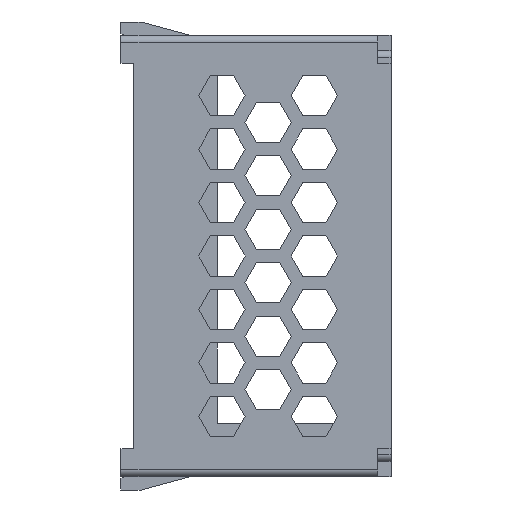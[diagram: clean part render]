
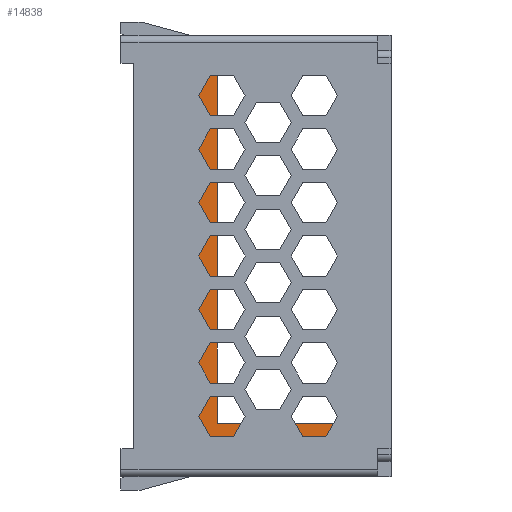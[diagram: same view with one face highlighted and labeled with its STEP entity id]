
A CAD part, left-side view. The second image highlights one B-rep face of the part: STEP entity #14838.
In plain terms, the highlighted planar face has unit normal (-1, 0, 0).
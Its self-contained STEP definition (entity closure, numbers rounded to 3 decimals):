
#571 = DIRECTION ( 'NONE',  ( 0., 0., 1. ) ) ;
#683 = CARTESIAN_POINT ( 'NONE',  ( 45., 36.4, -30.85 ) ) ;
#1145 = CARTESIAN_POINT ( 'NONE',  ( 45., 36.4, 28. ) ) ;
#1245 = VERTEX_POINT ( 'NONE', #16728 ) ;
#1760 = VECTOR ( 'NONE', #12596, 1000. ) ;
#2213 = CARTESIAN_POINT ( 'NONE',  ( 45., 36.4, -33. ) ) ;
#2543 = VECTOR ( 'NONE', #20931, 1000. ) ;
#2684 = EDGE_CURVE ( 'NONE', #10753, #12878, #19997, .T. ) ;
#2953 = VERTEX_POINT ( 'NONE', #24422 ) ;
#3290 = LINE ( 'NONE', #10526, #15840 ) ;
#3335 = CARTESIAN_POINT ( 'NONE',  ( 45., 36.4, 26.85 ) ) ;
#3409 = VECTOR ( 'NONE', #3996, 1000. ) ;
#3436 = CARTESIAN_POINT ( 'NONE',  ( 45., 36.4, 28. ) ) ;
#3996 = DIRECTION ( 'NONE',  ( 0., -1., 0. ) ) ;
#4067 = CARTESIAN_POINT ( 'NONE',  ( 45., 2., 26.5 ) ) ;
#4197 = ORIENTED_EDGE ( 'NONE', *, *, #12172, .T. ) ;
#4563 = AXIS2_PLACEMENT_3D ( 'NONE', #2213, #10629, #17400 ) ;
#4600 = CARTESIAN_POINT ( 'NONE',  ( 45., 2., -27. ) ) ;
#4747 = CARTESIAN_POINT ( 'NONE',  ( 45., 36.4, 26.85 ) ) ;
#4927 = ORIENTED_EDGE ( 'NONE', *, *, #15068, .F. ) ;
#5239 = DIRECTION ( 'NONE',  ( 0., -1., 0. ) ) ;
#5325 = CARTESIAN_POINT ( 'NONE',  ( 45., 22., 26.5 ) ) ;
#5811 = ORIENTED_EDGE ( 'NONE', *, *, #26306, .F. ) ;
#6099 = VECTOR ( 'NONE', #24732, 1000. ) ;
#7033 = VECTOR ( 'NONE', #8979, 1000. ) ;
#7063 = VERTEX_POINT ( 'NONE', #27923 ) ;
#7214 = VERTEX_POINT ( 'NONE', #24036 ) ;
#7464 = EDGE_CURVE ( 'NONE', #1245, #2953, #12552, .T. ) ;
#7548 = LINE ( 'NONE', #8147, #1760 ) ;
#7779 = CARTESIAN_POINT ( 'NONE',  ( 45., 0., 28. ) ) ;
#7874 = ORIENTED_EDGE ( 'NONE', *, *, #27504, .T. ) ;
#7976 = DIRECTION ( 'NONE',  ( 0., 1., 0. ) ) ;
#8147 = CARTESIAN_POINT ( 'NONE',  ( 45., 2., -27. ) ) ;
#8184 = CARTESIAN_POINT ( 'NONE',  ( 45., 0., -32. ) ) ;
#8237 = VERTEX_POINT ( 'NONE', #7779 ) ;
#8516 = CARTESIAN_POINT ( 'NONE',  ( 45., 36.4, -33. ) ) ;
#8748 = PLANE ( 'NONE',  #4563 ) ;
#8979 = DIRECTION ( 'NONE',  ( 0., 0., -1. ) ) ;
#9651 = EDGE_CURVE ( 'NONE', #12878, #27512, #7548, .T. ) ;
#9822 = CARTESIAN_POINT ( 'NONE',  ( 45., 22., -27. ) ) ;
#9859 = VERTEX_POINT ( 'NONE', #4747 ) ;
#10035 = ORIENTED_EDGE ( 'NONE', *, *, #17026, .F. ) ;
#10458 = CARTESIAN_POINT ( 'NONE',  ( 45., 34.5, 26.85 ) ) ;
#10526 = CARTESIAN_POINT ( 'NONE',  ( 45., 22., 26.5 ) ) ;
#10629 = DIRECTION ( 'NONE',  ( -1., 0., 0. ) ) ;
#10646 = FACE_BOUND ( 'NONE', #17100, .T. ) ;
#10753 = VERTEX_POINT ( 'NONE', #27145 ) ;
#10978 = VECTOR ( 'NONE', #15063, 1000. ) ;
#11096 = ORIENTED_EDGE ( 'NONE', *, *, #12270, .F. ) ;
#12001 = FACE_OUTER_BOUND ( 'NONE', #27924, .T. ) ;
#12036 = DIRECTION ( 'NONE',  ( 0., 1., 0. ) ) ;
#12172 = EDGE_CURVE ( 'NONE', #15050, #9859, #16759, .T. ) ;
#12270 = EDGE_CURVE ( 'NONE', #8237, #2953, #27813, .T. ) ;
#12552 = LINE ( 'NONE', #8184, #3409 ) ;
#12596 = DIRECTION ( 'NONE',  ( 0., 1., 0. ) ) ;
#12680 = ORIENTED_EDGE ( 'NONE', *, *, #26389, .T. ) ;
#12878 = VERTEX_POINT ( 'NONE', #4600 ) ;
#13544 = CARTESIAN_POINT ( 'NONE',  ( 45., 34.5, -33. ) ) ;
#14526 = LINE ( 'NONE', #15935, #6099 ) ;
#14838 = ADVANCED_FACE ( 'NONE', ( #12001, #10646 ), #8748, .T. ) ;
#15050 = VERTEX_POINT ( 'NONE', #1145 ) ;
#15063 = DIRECTION ( 'NONE',  ( 0., 0., -1. ) ) ;
#15068 = EDGE_CURVE ( 'NONE', #20351, #9859, #18127, .T. ) ;
#15840 = VECTOR ( 'NONE', #21274, 1000. ) ;
#15935 = CARTESIAN_POINT ( 'NONE',  ( 45., 36.4, -33. ) ) ;
#16728 = CARTESIAN_POINT ( 'NONE',  ( 45., 36.4, -32. ) ) ;
#16759 = LINE ( 'NONE', #8516, #10978 ) ;
#17026 = EDGE_CURVE ( 'NONE', #7063, #20351, #19767, .T. ) ;
#17100 = EDGE_LOOP ( 'NONE', ( #7874, #24232, #24279, #17745 ) ) ;
#17115 = VERTEX_POINT ( 'NONE', #5325 ) ;
#17310 = VECTOR ( 'NONE', #5239, 1000. ) ;
#17400 = DIRECTION ( 'NONE',  ( 0., 0., 1. ) ) ;
#17745 = ORIENTED_EDGE ( 'NONE', *, *, #22394, .T. ) ;
#18127 = LINE ( 'NONE', #3335, #25281 ) ;
#18638 = VECTOR ( 'NONE', #19266, 1000. ) ;
#18675 = LINE ( 'NONE', #683, #17310 ) ;
#19266 = DIRECTION ( 'NONE',  ( 0., 0., -1. ) ) ;
#19324 = ORIENTED_EDGE ( 'NONE', *, *, #26805, .T. ) ;
#19767 = LINE ( 'NONE', #13544, #20758 ) ;
#19997 = LINE ( 'NONE', #4067, #18638 ) ;
#20351 = VERTEX_POINT ( 'NONE', #10458 ) ;
#20758 = VECTOR ( 'NONE', #571, 1000. ) ;
#20931 = DIRECTION ( 'NONE',  ( 0., -1., 0. ) ) ;
#21274 = DIRECTION ( 'NONE',  ( 0., 0., 1. ) ) ;
#21817 = CARTESIAN_POINT ( 'NONE',  ( 45., 0., -33. ) ) ;
#22394 = EDGE_CURVE ( 'NONE', #27512, #17115, #3290, .T. ) ;
#22754 = VECTOR ( 'NONE', #12036, 1000. ) ;
#23447 = LINE ( 'NONE', #3436, #22754 ) ;
#24036 = CARTESIAN_POINT ( 'NONE',  ( 45., 36.4, -30.85 ) ) ;
#24232 = ORIENTED_EDGE ( 'NONE', *, *, #2684, .T. ) ;
#24279 = ORIENTED_EDGE ( 'NONE', *, *, #9651, .T. ) ;
#24422 = CARTESIAN_POINT ( 'NONE',  ( 45., 0., -32. ) ) ;
#24732 = DIRECTION ( 'NONE',  ( 0., 0., -1. ) ) ;
#25281 = VECTOR ( 'NONE', #7976, 1000. ) ;
#25325 = LINE ( 'NONE', #27424, #2543 ) ;
#26306 = EDGE_CURVE ( 'NONE', #7214, #7063, #18675, .T. ) ;
#26389 = EDGE_CURVE ( 'NONE', #8237, #15050, #23447, .T. ) ;
#26582 = ORIENTED_EDGE ( 'NONE', *, *, #7464, .T. ) ;
#26805 = EDGE_CURVE ( 'NONE', #7214, #1245, #14526, .T. ) ;
#27145 = CARTESIAN_POINT ( 'NONE',  ( 45., 2., 26.5 ) ) ;
#27424 = CARTESIAN_POINT ( 'NONE',  ( 45., 2., 26.5 ) ) ;
#27504 = EDGE_CURVE ( 'NONE', #17115, #10753, #25325, .T. ) ;
#27512 = VERTEX_POINT ( 'NONE', #9822 ) ;
#27813 = LINE ( 'NONE', #21817, #7033 ) ;
#27923 = CARTESIAN_POINT ( 'NONE',  ( 45., 34.5, -30.85 ) ) ;
#27924 = EDGE_LOOP ( 'NONE', ( #19324, #26582, #11096, #12680, #4197, #4927, #10035, #5811 ) ) ;
